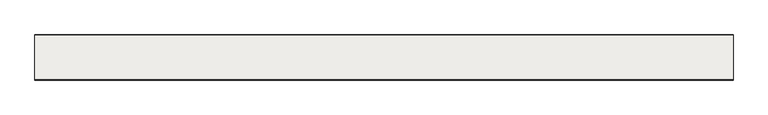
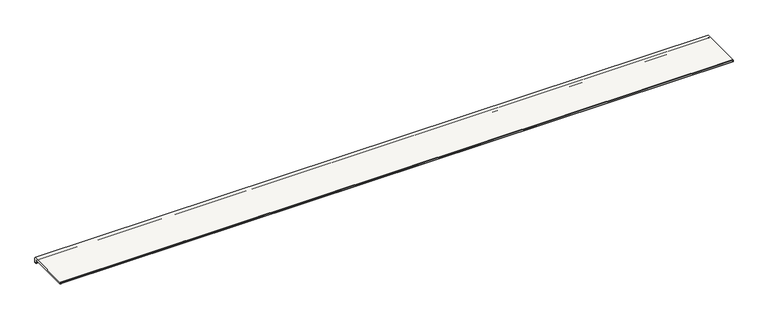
"""IFC4 building model written with IfcOpenShell, lengths in millimetres: slab geometry, ROSA GRES_L62 : Pieza L62_Tao_Beige_Anti-Slip."""

from ifc_helpers import new_model, si_unit, point, frame, frame_2d, origin, place, context, project, spatial, polyline, circle_curve, trimmed, segment, composite_curve, outline, extrude, source, transform, mapped, element, save


def slab_95e174f0(model_context):
    return source(origin(), model_context, "Body", "SweptSolid", [
        extrude(outline(composite_curve([segment(trimmed(circle_curve(frame_2d((-12.1001991, -35.1001991)), 1.8998009), [point((-12.1001991, -37.0))], [point((-14.0, -35.1001991))], False, "CARTESIAN"), True, "CONTINUOUS"), segment(polyline([(-14.0, -35.1001991), (-14.0, -16.5836242)]), True, "CONTINUOUS"), segment(trimmed(circle_curve(frame_2d((-16.6422322, -16.5836242)), 2.6422322), [point((-14.0, -16.5836242))], [point((-16.6422322, -13.9413919))], True, "CARTESIAN"), True, "CONTINUOUS"), segment(polyline([(-16.6422322, -13.9413919), (-315.5234432, -13.9413919)]), True, "CONTINUOUS"), segment(trimmed(circle_curve(frame_2d((-315.5234432, -12.4648352)), 1.4765568), [point((-315.5234432, -13.9413919))], [point((-317.0, -12.4648352))], False, "CARTESIAN"), True, "CONTINUOUS"), segment(polyline([(-317.0, -12.4648352), (-317.0, -2.5), (-315.5, 0.0), (-2.5, 0.0), (0.0, -2.5), (0.0, -34.5)]), True, "CONTINUOUS"), segment(trimmed(circle_curve(frame_2d((-2.5, -34.5)), 2.5), [point((0.0, -34.5))], [point((-2.5, -37.0))], False, "CARTESIAN"), True, "CONTINUOUS"), segment(polyline([(-2.5, -37.0), (-5.422949, -37.0)]), True, "CONTINUOUS"), segment(trimmed(circle_curve(frame_2d((-7.4142134, -37.0)), 1.9912643), [point((-5.422949, -37.0))], [point((-9.4054777, -37.0))], True, "CARTESIAN"), True, "CONTINUOUS"), segment(polyline([(-9.4054777, -37.0), (-12.1001991, -37.0)]), True, "CONTINUOUS")], self_intersect=False)), frame((0.0, 0.0, 0.0), z_axis=(1.0, 0.0, 0.0), x_axis=(0.0, 1.0, 0.0)), (0.0, 0.0, 1.0), 4900.0),
    ])


if __name__ == "__main__":
    model = new_model("IFC4")
    model_context = context("Model", 3, world=origin())
    ifc_project = project(units=[si_unit("LENGTHUNIT", "METRE", prefix="MILLI")], contexts=[model_context])
    site = spatial("IfcSite", under=ifc_project)
    building = spatial("IfcBuilding", under=site)
    placement = place(None, origin())
    slab_shape = slab_95e174f0(model_context)
    element("IfcSlab", 1, ObjectType="ROSA GRES_L62 : Pieza L62_Tao_Beige_Anti-Slip", at=placement, inside=building, context=model_context, shape_type="MappedRepresentation", body=[
        mapped(slab_shape, transform((0.0, 0.0, 0.0), x_axis=(1.0, 0.0, 0.0), y_axis=(0.0, 1.0, 0.0), z_axis=(0.0, 0.0, 1.0))),
    ])
    save(model, "model.ifc")
